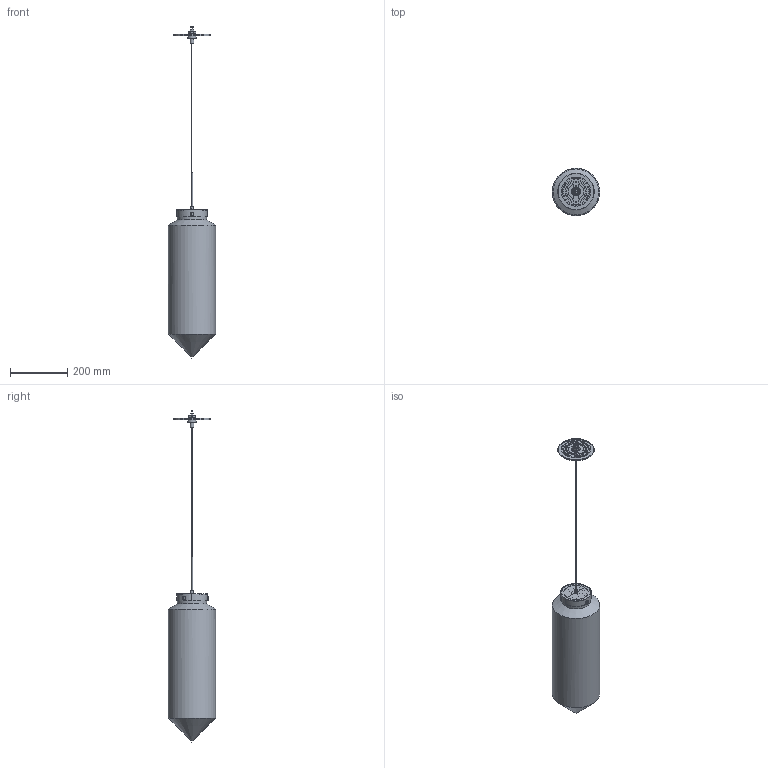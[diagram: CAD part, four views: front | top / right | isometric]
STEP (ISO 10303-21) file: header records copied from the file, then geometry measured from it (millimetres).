
FILE_DESCRIPTION(/* description */ (''),/* implementation_level */ '2;1');
FILE_NAME(/* name */ 'C:/Users/zach/Niche/Product Development - Documents/CAD Models/Pendants/Constellation Collection/Dart Series/Dart Grand/Glass - Low Voltage Hardware/Niche - Dart Grand Pendant.step',/* time_stamp */ '2022-09-02T10:36:12-04:00',/* author */ (''),/* organization */ (''),/* preprocessor_version */ 'ST-DEVELOPER v19',/* originating_system */ 'Autodesk Translation Framework v11.7.0.108',/* authorisation */ '');
FILE_SCHEMA (('AUTOMOTIVE_DESIGN { 1 0 10303 214 3 1 1 }'));
Length unit declared in the file: inch
Products named in the file (2): Dart Grand; Dart Grand_1
Assembly tree (1 placements, depth 2):
  Dart Grand
    Dart Grand_1
Bounding box: 165.1 x 165.08 x 1158.13 mm (x, y, z)
Volume: 1014214.1 mm3; surface area: 625397 mm2
Topology: 29 solids, 29 shells, 712 faces, 1758 edges, 1158 vertices
Faces by surface type: plane 411, cylinder 198, bspline 65, cone 37, torus 1
Full cylindrical faces by diameter (mm): 0.571 x2, 1.016 x2, 1.778 x2, 2.032 x1, 2.54 x4, 2.794 x1, 3.302 x7, 3.556 x4, 3.81 x5, 4.064 x3, 4.826 x1, 5.08 x2, 5.461 x1, 6.096 x3, 7.6 x3, 8.128 x1, 8.89 x2, 9.312 x4, 10.16 x2, 12.7 x4, 13.97 x1, 18.923 x1, 19.558 x1, 22.86 x2, 24.13 x1, 26.924 x1, 28.194 x2, 82.55 x1, 93.98 x1, 101.6 x3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
Entity records: 26144 total; most frequent: CARTESIAN_POINT 9442, ORIENTED_EDGE 3508, DIRECTION 3164, EDGE_CURVE 1754, VERTEX_POINT 1158, AXIS2_PLACEMENT_3D 1058, LINE 1048, VECTOR 1048
